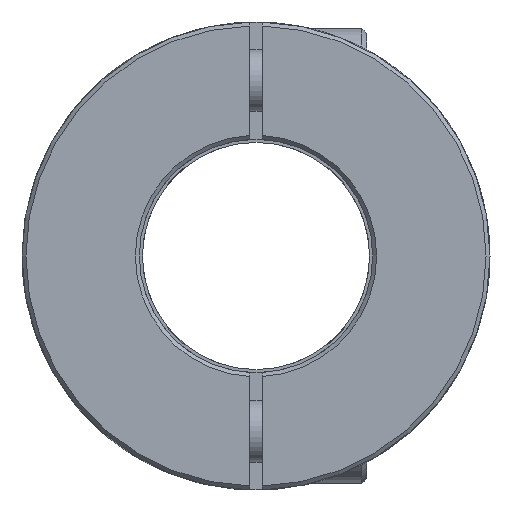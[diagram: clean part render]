
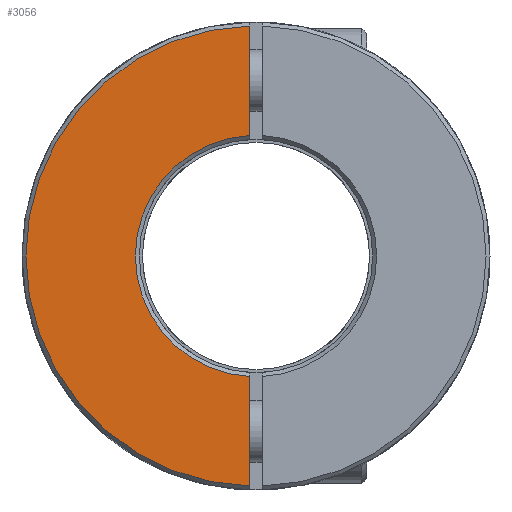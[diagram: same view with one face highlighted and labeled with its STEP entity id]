
A CAD part, front view. The second image highlights one B-rep face of the part: STEP entity #3056.
In plain terms, the highlighted planar face has unit normal (0, -1, 0).
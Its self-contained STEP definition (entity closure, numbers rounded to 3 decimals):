
#1=DIRECTION('',(0.,0.,-1.));
#2=VECTOR('',#1,8.916);
#3=CARTESIAN_POINT('',(-0.5,-25.,18.723));
#4=LINE('',#3,#2);
#5=DIRECTION('',(0.,0.,-1.));
#6=VECTOR('',#5,8.916);
#7=CARTESIAN_POINT('',(-0.5,-25.,-9.807));
#8=LINE('',#7,#6);
#2159=CARTESIAN_POINT('',(0.,-25.,0.));
#2160=DIRECTION('',(0.,1.,0.));
#2161=DIRECTION('',(-0.051,0.,-0.999));
#2162=AXIS2_PLACEMENT_3D('',#2159,#2160,#2161);
#2195=CARTESIAN_POINT('',(0.,-25.,0.));
#2196=DIRECTION('',(0.,-1.,0.));
#2197=DIRECTION('',(-0.027,0.,1.));
#2198=AXIS2_PLACEMENT_3D('',#2195,#2196,#2197);
#2783=CARTESIAN_POINT('',(-0.5,-25.,18.723));
#2784=CARTESIAN_POINT('',(-0.5,-25.,9.807));
#2785=VERTEX_POINT('',#2783);
#2786=VERTEX_POINT('',#2784);
#2787=CARTESIAN_POINT('',(-0.5,-25.,-9.807));
#2788=CARTESIAN_POINT('',(-0.5,-25.,-18.723));
#2789=VERTEX_POINT('',#2787);
#2790=VERTEX_POINT('',#2788);
#3041=CARTESIAN_POINT('',(0.,-25.,0.));
#3042=DIRECTION('',(0.,1.,0.));
#3043=DIRECTION('',(1.,0.,0.));
#3044=AXIS2_PLACEMENT_3D('',#3041,#3042,#3043);
#3045=PLANE('',#3044);
#3047=ORIENTED_EDGE('',*,*,#3046,.T.);
#3049=ORIENTED_EDGE('',*,*,#3048,.F.);
#3051=ORIENTED_EDGE('',*,*,#3050,.T.);
#3053=ORIENTED_EDGE('',*,*,#3052,.F.);
#3054=EDGE_LOOP('',(#3047,#3049,#3051,#3053));
#3055=FACE_OUTER_BOUND('',#3054,.F.);
#3056=ADVANCED_FACE('',(#3055),#3045,.F.);
#2163=CIRCLE('',#2162,9.82);
#2199=CIRCLE('',#2198,18.73);
#3046=EDGE_CURVE('',#2785,#2786,#4,.T.);
#3048=EDGE_CURVE('',#2789,#2786,#2163,.T.);
#3050=EDGE_CURVE('',#2789,#2790,#8,.T.);
#3052=EDGE_CURVE('',#2785,#2790,#2199,.T.);
